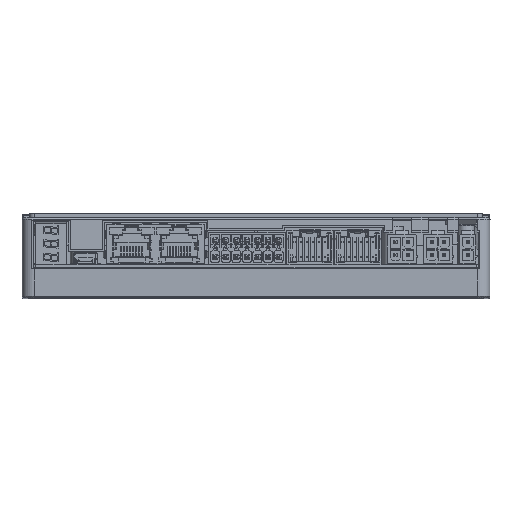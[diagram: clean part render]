
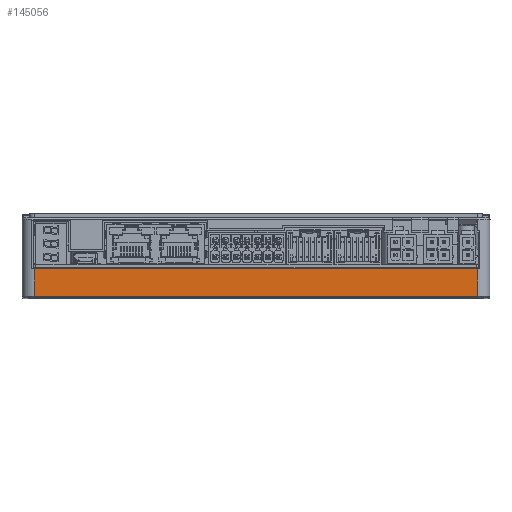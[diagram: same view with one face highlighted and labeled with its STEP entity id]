
A CAD part, top view. The second image highlights one B-rep face of the part: STEP entity #145056.
In plain terms, the highlighted planar face has unit normal (0, 0, 1).
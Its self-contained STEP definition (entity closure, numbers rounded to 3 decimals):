
#132927=DIRECTION('',(0.,1.,0.));
#132928=VECTOR('',#132927,9.2);
#132929=CARTESIAN_POINT('',(73.5,-8.5,
2.5));
#132930=LINE('',#132929,#132928);
#132969=DIRECTION('',(-1.,0.,0.));
#132970=VECTOR('',#132969,147.);
#132971=CARTESIAN_POINT('',(73.5,0.7,2.5));
#132972=LINE('',#132971,#132970);
#134324=DIRECTION('',(0.,-1.,0.));
#134325=VECTOR('',#134324,9.2);
#134326=CARTESIAN_POINT('',(-73.5,0.7,2.5));
#134327=LINE('',#134326,#134325);
#134340=DIRECTION('',(-1.,0.,0.));
#134341=VECTOR('',#134340,147.);
#134342=CARTESIAN_POINT('',(73.5,-8.5,
2.5));
#134343=LINE('',#134342,#134341);
#140121=CARTESIAN_POINT('',(73.5,-8.5,
2.5));
#140122=VERTEX_POINT('',#140121);
#140123=CARTESIAN_POINT('',(73.5,0.7,2.5));
#140124=VERTEX_POINT('',#140123);
#140133=CARTESIAN_POINT('',(-73.5,0.7,2.5));
#140134=VERTEX_POINT('',#140133);
#140748=CARTESIAN_POINT('',(-73.5,-8.5,
2.5));
#140749=VERTEX_POINT('',#140748);
#145044=CARTESIAN_POINT('',(-77.5,-15.,2.5));
#145045=DIRECTION('',(0.,0.,1.));
#145046=DIRECTION('',(0.,1.,0.));
#145047=AXIS2_PLACEMENT_3D('',#145044,#145045,#145046);
#145048=PLANE('',#145047);
#145049=ORIENTED_EDGE('',*,*,#143503,.F.);
#145050=ORIENTED_EDGE('',*,*,#143456,.F.);
#145052=ORIENTED_EDGE('',*,*,#145051,.T.);
#145053=ORIENTED_EDGE('',*,*,#145029,.F.);
#145054=EDGE_LOOP('',(#145049,#145050,#145052,#145053));
#145055=FACE_OUTER_BOUND('',#145054,.F.);
#143456=EDGE_CURVE('',#140122,#140124,#132930,.T.);
#143503=EDGE_CURVE('',#140124,#140134,#132972,.T.);
#145029=EDGE_CURVE('',#140134,#140749,#134327,.T.);
#145051=EDGE_CURVE('',#140122,#140749,#134343,.T.);
#145056=ADVANCED_FACE('',(#145055),#145048,.T.);
